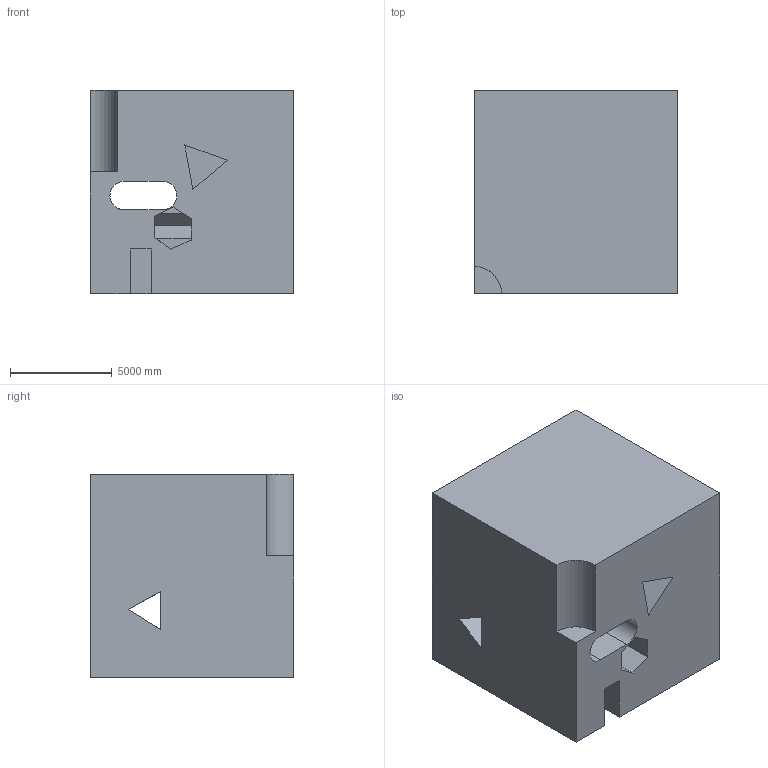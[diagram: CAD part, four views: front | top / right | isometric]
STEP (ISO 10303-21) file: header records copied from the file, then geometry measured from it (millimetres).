
FILE_DESCRIPTION (( 'STEP AP203' ), '1' );
FILE_NAME ('708.STEP', '2022-08-04T15:42:57', ( 'user' ), ( '' ), 'SwSTEP 2.0', 'SolidWorks 2021', '' );
FILE_SCHEMA (( 'CONFIG_CONTROL_DESIGN' ));
Length unit declared in the file: centimetre
Products named in the file (1): 708
Bounding box: 10000 x 10000 x 10000 mm (x, y, z)
Volume: 870235193224.2 mm3; surface area: 865928790.2 mm2
Topology: 1 solids, 1 shells, 45 faces, 132 edges, 88 vertices
Faces by surface type: plane 36, cylinder 9
Entity records: 1579 total; most frequent: CARTESIAN_POINT 272, ORIENTED_EDGE 264, DIRECTION 242, EDGE_CURVE 132, LINE 110, VECTOR 110, VERTEX_POINT 88, AXIS2_PLACEMENT_3D 66
